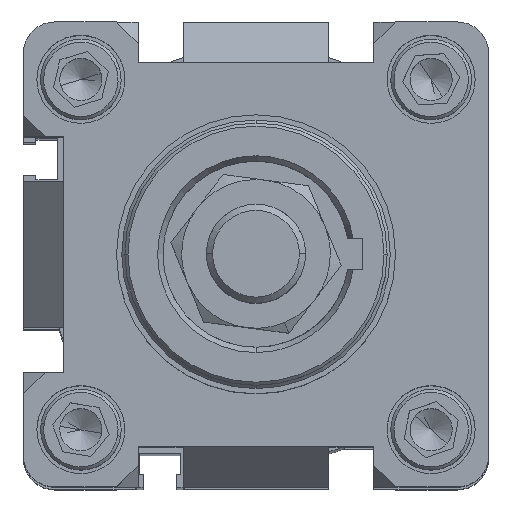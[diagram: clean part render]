
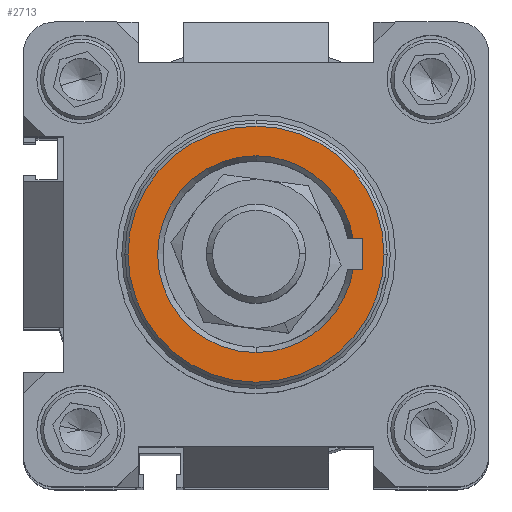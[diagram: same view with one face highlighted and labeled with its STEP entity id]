
A CAD part, top view. The second image highlights one B-rep face of the part: STEP entity #2713.
In plain terms, the highlighted planar face has unit normal (0, 0, 1).
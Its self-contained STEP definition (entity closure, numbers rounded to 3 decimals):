
#321 = ORIENTED_EDGE ( 'NONE', *, *, #8020, .T. ) ;
#705 = ORIENTED_EDGE ( 'NONE', *, *, #30022, .F. ) ;
#1028 = EDGE_CURVE ( 'NONE', #19920, #6865, #8395, .T. ) ;
#1704 = FACE_OUTER_BOUND ( 'NONE', #7728, .T. ) ;
#1928 = VERTEX_POINT ( 'NONE', #17034 ) ;
#2713 = ADVANCED_FACE ( 'NONE', ( #1704, #20612 ), #25720, .T. ) ;
#2859 = CARTESIAN_POINT ( 'NONE',  ( 20.65, 0., 148.5 ) ) ;
#4072 = CARTESIAN_POINT ( 'NONE',  ( 0., 0., 148.5 ) ) ;
#4968 = DIRECTION ( 'NONE',  ( 0., -1., 0. ) ) ;
#5682 = CIRCLE ( 'NONE', #21376, 15.866 ) ;
#6158 = DIRECTION ( 'NONE',  ( 0., 0., -1. ) ) ;
#6427 = DIRECTION ( 'NONE',  ( 1., 0., 0. ) ) ;
#6865 = VERTEX_POINT ( 'NONE', #25773 ) ;
#7338 = AXIS2_PLACEMENT_3D ( 'NONE', #25928, #21257, #11722 ) ;
#7502 = EDGE_CURVE ( 'NONE', #22294, #25131, #27592, .T. ) ;
#7676 = LINE ( 'NONE', #25937, #12512 ) ;
#7728 = EDGE_LOOP ( 'NONE', ( #22698, #705 ) ) ;
#7908 = VECTOR ( 'NONE', #4968, 1000. ) ;
#8020 = EDGE_CURVE ( 'NONE', #8241, #1928, #10838, .T. ) ;
#8241 = VERTEX_POINT ( 'NONE', #11935 ) ;
#8395 = CIRCLE ( 'NONE', #28742, 20.65 ) ;
#9003 = CARTESIAN_POINT ( 'NONE',  ( 0., 15.866, 148.5 ) ) ;
#9628 = CARTESIAN_POINT ( 'NONE',  ( 17.2, 0., 148.5 ) ) ;
#10231 = CIRCLE ( 'NONE', #22910, 15.866 ) ;
#10304 = CARTESIAN_POINT ( 'NONE',  ( 15.668, -2.5, 148.5 ) ) ;
#10749 = VERTEX_POINT ( 'NONE', #9003 ) ;
#10838 = LINE ( 'NONE', #15851, #21980 ) ;
#11109 = DIRECTION ( 'NONE',  ( 0., 0., -1. ) ) ;
#11510 = CARTESIAN_POINT ( 'NONE',  ( 0., 0., 148.5 ) ) ;
#11722 = DIRECTION ( 'NONE',  ( 1., 0., 0. ) ) ;
#11763 = CARTESIAN_POINT ( 'NONE',  ( 0., -15.866, 148.5 ) ) ;
#11935 = CARTESIAN_POINT ( 'NONE',  ( 15.668, 2.5, 148.5 ) ) ;
#12444 = AXIS2_PLACEMENT_3D ( 'NONE', #11510, #28146, #30432 ) ;
#12512 = VECTOR ( 'NONE', #16691, 1000. ) ;
#13494 = DIRECTION ( 'NONE',  ( 0., 0., -1. ) ) ;
#15159 = EDGE_CURVE ( 'NONE', #1928, #29551, #24263, .T. ) ;
#15312 = ORIENTED_EDGE ( 'NONE', *, *, #7502, .T. ) ;
#15851 = CARTESIAN_POINT ( 'NONE',  ( 17.2, 2.5, 148.5 ) ) ;
#15899 = DIRECTION ( 'NONE',  ( 0., 0., -1. ) ) ;
#15981 = CARTESIAN_POINT ( 'NONE',  ( 0., 0., 148.5 ) ) ;
#16691 = DIRECTION ( 'NONE',  ( -1., 0., 0. ) ) ;
#17034 = CARTESIAN_POINT ( 'NONE',  ( 17.2, 2.5, 148.5 ) ) ;
#17183 = ORIENTED_EDGE ( 'NONE', *, *, #15159, .T. ) ;
#18818 = CARTESIAN_POINT ( 'NONE',  ( 17.2, -2.5, 148.5 ) ) ;
#18847 = ORIENTED_EDGE ( 'NONE', *, *, #25015, .T. ) ;
#19920 = VERTEX_POINT ( 'NONE', #2859 ) ;
#20612 = FACE_BOUND ( 'NONE', #28893, .T. ) ;
#20778 = DIRECTION ( 'NONE',  ( 0., -1., 0. ) ) ;
#20861 = DIRECTION ( 'NONE',  ( 0., -1., 0. ) ) ;
#20870 = DIRECTION ( 'NONE',  ( 1., 0., 0. ) ) ;
#21257 = DIRECTION ( 'NONE',  ( 0., 0., -1. ) ) ;
#21376 = AXIS2_PLACEMENT_3D ( 'NONE', #15981, #11109, #20861 ) ;
#21980 = VECTOR ( 'NONE', #6427, 1000. ) ;
#22294 = VERTEX_POINT ( 'NONE', #10304 ) ;
#22698 = ORIENTED_EDGE ( 'NONE', *, *, #1028, .F. ) ;
#22863 = CIRCLE ( 'NONE', #7338, 20.65 ) ;
#22910 = AXIS2_PLACEMENT_3D ( 'NONE', #27760, #6158, #20778 ) ;
#23290 = AXIS2_PLACEMENT_3D ( 'NONE', #27759, #15899, #30572 ) ;
#24263 = LINE ( 'NONE', #9628, #7908 ) ;
#25015 = EDGE_CURVE ( 'NONE', #25131, #10749, #10231, .T. ) ;
#25131 = VERTEX_POINT ( 'NONE', #11763 ) ;
#25720 = PLANE ( 'NONE',  #12444 ) ;
#25773 = CARTESIAN_POINT ( 'NONE',  ( -20.65, 0., 148.5 ) ) ;
#25928 = CARTESIAN_POINT ( 'NONE',  ( 0., 0., 148.5 ) ) ;
#25937 = CARTESIAN_POINT ( 'NONE',  ( 17.2, -2.5, 148.5 ) ) ;
#26445 = EDGE_CURVE ( 'NONE', #10749, #8241, #5682, .T. ) ;
#27095 = ORIENTED_EDGE ( 'NONE', *, *, #26445, .T. ) ;
#27418 = ORIENTED_EDGE ( 'NONE', *, *, #28660, .T. ) ;
#27592 = CIRCLE ( 'NONE', #23290, 15.866 ) ;
#27759 = CARTESIAN_POINT ( 'NONE',  ( 0., 0., 148.5 ) ) ;
#27760 = CARTESIAN_POINT ( 'NONE',  ( 0., 0., 148.5 ) ) ;
#28146 = DIRECTION ( 'NONE',  ( 0., 0., 1. ) ) ;
#28660 = EDGE_CURVE ( 'NONE', #29551, #22294, #7676, .T. ) ;
#28742 = AXIS2_PLACEMENT_3D ( 'NONE', #4072, #13494, #20870 ) ;
#28893 = EDGE_LOOP ( 'NONE', ( #321, #17183, #27418, #15312, #18847, #27095 ) ) ;
#29551 = VERTEX_POINT ( 'NONE', #18818 ) ;
#30022 = EDGE_CURVE ( 'NONE', #6865, #19920, #22863, .T. ) ;
#30432 = DIRECTION ( 'NONE',  ( -1., 0., 0. ) ) ;
#30572 = DIRECTION ( 'NONE',  ( 0., -1., 0. ) ) ;
